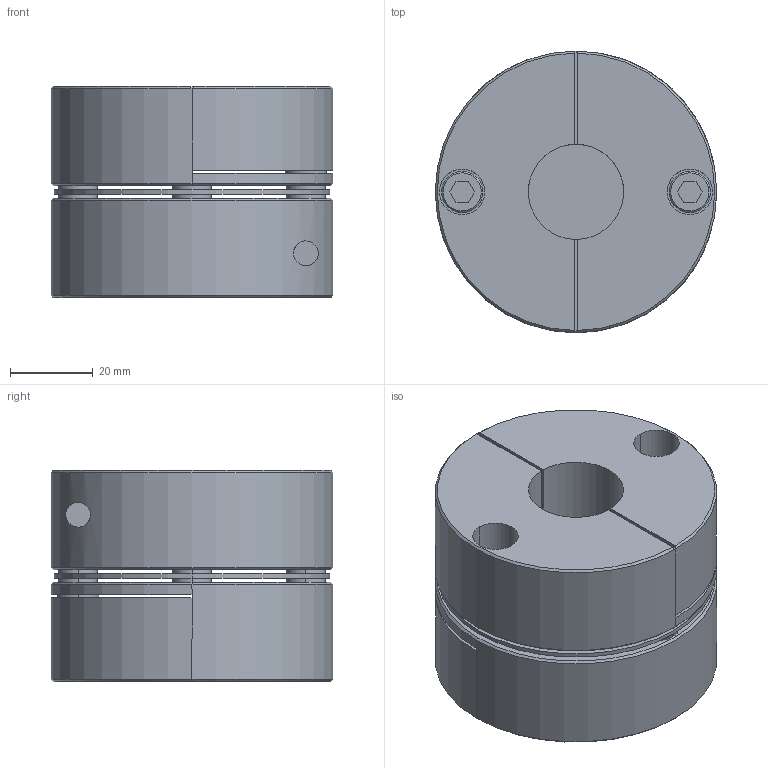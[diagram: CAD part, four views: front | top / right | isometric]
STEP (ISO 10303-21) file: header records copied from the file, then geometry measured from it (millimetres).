
FILE_DESCRIPTION (( 'STEP AP203' ), '1' );
FILE_NAME ('SHS68C.STEP', '2009-09-30T15:29:18', ( 'USER' ), ( 'HOME' ), 'SwSTEP 2.0', 'SolidWorks 2007', '' );
FILE_SCHEMA (( 'CONFIG_CONTROL_DESIGN' ));
Length unit declared in the file: millimetre
Products named in the file (3): SHS68C_預設; SHS68C; SHS68C(右)_預設
Assembly tree (3 placements, depth 2):
  SHS68C
    SHS68C(右)_預設  x2
    SHS68C_預設
Bounding box: 68 x 68 x 51 mm (x, y, z)
Volume: 143445 mm3; surface area: 48895 mm2
Topology: 3 solids, 3 shells, 174 faces, 422 edges, 272 vertices
Faces by surface type: plane 88, cylinder 66, cone 20
Entity records: 4105 total; most frequent: CARTESIAN_POINT 795, DIRECTION 648, ORIENTED_EDGE 588, EDGE_CURVE 294, AXIS2_PLACEMENT_3D 235, VERTEX_POINT 190, LINE 178, VECTOR 178
